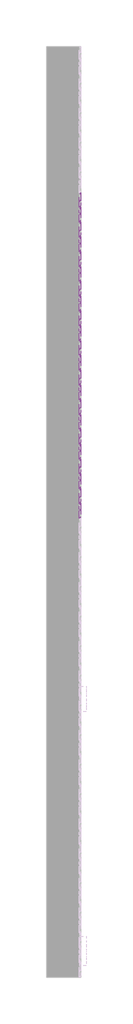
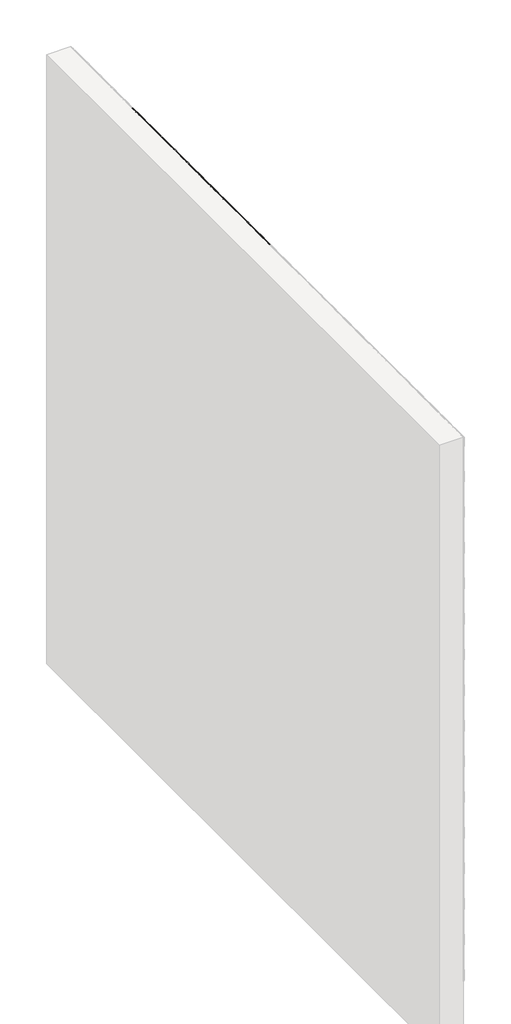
# One storey, part 20 of 121: 136 proxies.
"""IFC4 building model written with IfcOpenShell, lengths in millimetres."""

from ifc_helpers import new_model, si_unit, origin, place, context, project, spatial, transform, mapped, element, save
from components import generic_models_b2b2c5c1, generic_models_9bf73f6f, generic_models_5d175859, generic_models_65d4feed, generic_models_3c364290, generic_models_b652511d

model = new_model("IFC4")

# Units and contexts
model_context = context("Model", 3, world=origin())
ifc_project = project(units=[si_unit("LENGTHUNIT", "METRE", prefix="MILLI")], contexts=[model_context])

# Site, building, storey
site = spatial("IfcSite", under=ifc_project)
building = spatial("IfcBuilding", under=site)
storey = spatial("IfcBuildingStorey", under=building, Name="PORTOBELLO - SHOWROOM", Elevation=0.0)

# Proxies
placement = place(None, origin())
generic_models_shape = generic_models_b2b2c5c1(model_context)
element("IfcBuildingElementProxy", 1, Name="PBSHOP - CUBICA ARGENTO 4,8X8,3 : CUBICA ARGENTO - POSIÇÃO 01", ObjectType="PBSHOP - CUBICA ARGENTO 4,8X8,3 : CUBICA ARGENTO - POSIÇÃO 01", at=placement, inside=storey, context=model_context, shape_type="MappedRepresentation", body=[
    mapped(generic_models_shape, transform((150369.5341846, -4995.4435811, 2486.3959564), x_axis=(0.0, 1.0, 0.0), y_axis=(0.0, 0.0, 1.0), z_axis=(1.0, 0.0, 0.0))),
])
element("IfcBuildingElementProxy", 2, Name="PBSHOP - CUBICA ARGENTO 4,8X8,3 : CUBICA ARGENTO - POSIÇÃO 01", ObjectType="PBSHOP - CUBICA ARGENTO 4,8X8,3 : CUBICA ARGENTO - POSIÇÃO 01", at=placement, inside=storey, context=model_context, shape_type="MappedRepresentation", body=[
    mapped(generic_models_shape, transform((150369.5341846, -4904.6043119, 2486.3959564), x_axis=(0.0, 1.0, 0.0), y_axis=(0.0, 0.0, 1.0), z_axis=(1.0, 0.0, 0.0))),
])
element("IfcBuildingElementProxy", 3, Name="PBSHOP - CUBICA ARGENTO 4,8X8,3 : CUBICA ARGENTO - POSIÇÃO 01", ObjectType="PBSHOP - CUBICA ARGENTO 4,8X8,3 : CUBICA ARGENTO - POSIÇÃO 01", at=placement, inside=storey, context=model_context, shape_type="MappedRepresentation", body=[
    mapped(generic_models_shape, transform((150369.5341846, -4813.7650427, 2486.3959564), x_axis=(0.0, 1.0, 0.0), y_axis=(0.0, 0.0, 1.0), z_axis=(1.0, 0.0, 0.0))),
])
element("IfcBuildingElementProxy", 4, Name="PBSHOP - CUBICA ARGENTO 4,8X8,3 : CUBICA ARGENTO - POSIÇÃO 01", ObjectType="PBSHOP - CUBICA ARGENTO 4,8X8,3 : CUBICA ARGENTO - POSIÇÃO 01", at=placement, inside=storey, context=model_context, shape_type="MappedRepresentation", body=[
    mapped(generic_models_shape, transform((150369.5341846, -4722.9257734, 2486.3959564), x_axis=(0.0, 1.0, 0.0), y_axis=(0.0, 0.0, 1.0), z_axis=(1.0, 0.0, 0.0))),
])
element("IfcBuildingElementProxy", 5, Name="PBSHOP - CUBICA ARGENTO 4,8X8,3 : CUBICA ARGENTO - POSIÇÃO 01", ObjectType="PBSHOP - CUBICA ARGENTO 4,8X8,3 : CUBICA ARGENTO - POSIÇÃO 01", at=placement, inside=storey, context=model_context, shape_type="MappedRepresentation", body=[
    mapped(generic_models_shape, transform((150369.5341846, -4632.0865042, 2486.3959564), x_axis=(0.0, 1.0, 0.0), y_axis=(0.0, 0.0, 1.0), z_axis=(1.0, 0.0, 0.0))),
])
element("IfcBuildingElementProxy", 6, Name="PBSHOP - CUBICA ARGENTO 4,8X8,3 : CUBICA ARGENTO - POSIÇÃO 01", ObjectType="PBSHOP - CUBICA ARGENTO 4,8X8,3 : CUBICA ARGENTO - POSIÇÃO 01", at=placement, inside=storey, context=model_context, shape_type="MappedRepresentation", body=[
    mapped(generic_models_shape, transform((150369.5341846, -4541.2472349, 2486.3959564), x_axis=(0.0, 1.0, 0.0), y_axis=(0.0, 0.0, 1.0), z_axis=(1.0, 0.0, 0.0))),
])
element("IfcBuildingElementProxy", 7, Name="PBSHOP - CUBICA ARGENTO 4,8X8,3 : CUBICA ARGENTO - POSIÇÃO 01", ObjectType="PBSHOP - CUBICA ARGENTO 4,8X8,3 : CUBICA ARGENTO - POSIÇÃO 01", at=placement, inside=storey, context=model_context, shape_type="MappedRepresentation", body=[
    mapped(generic_models_shape, transform((150369.5341846, -4450.4079657, 2486.3959564), x_axis=(0.0, 1.0, 0.0), y_axis=(0.0, 0.0, 1.0), z_axis=(1.0, 0.0, 0.0))),
])
element("IfcBuildingElementProxy", 8, Name="PBSHOP - CUBICA ARGENTO 4,8X8,3 : CUBICA ARGENTO - POSIÇÃO 01", ObjectType="PBSHOP - CUBICA ARGENTO 4,8X8,3 : CUBICA ARGENTO - POSIÇÃO 01", at=placement, inside=storey, context=model_context, shape_type="MappedRepresentation", body=[
    mapped(generic_models_shape, transform((150369.5341846, -4359.5686964, 2486.3959564), x_axis=(0.0, 1.0, 0.0), y_axis=(0.0, 0.0, 1.0), z_axis=(1.0, 0.0, 0.0))),
])
element("IfcBuildingElementProxy", 9, Name="PBSHOP - CUBICA ARGENTO 4,8X8,3 : CUBICA ARGENTO - POSIÇÃO 01", ObjectType="PBSHOP - CUBICA ARGENTO 4,8X8,3 : CUBICA ARGENTO - POSIÇÃO 01", at=placement, inside=storey, context=model_context, shape_type="MappedRepresentation", body=[
    mapped(generic_models_shape, transform((150369.5341846, -4268.7294272, 2486.3959564), x_axis=(0.0, 1.0, 0.0), y_axis=(0.0, 0.0, 1.0), z_axis=(1.0, 0.0, 0.0))),
])
element("IfcBuildingElementProxy", 10, Name="PBSHOP - CUBICA ARGENTO 4,8X8,3 : CUBICA ARGENTO - POSIÇÃO 01", ObjectType="PBSHOP - CUBICA ARGENTO 4,8X8,3 : CUBICA ARGENTO - POSIÇÃO 01", at=placement, inside=storey, context=model_context, shape_type="MappedRepresentation", body=[
    mapped(generic_models_shape, transform((150369.5341846, -4177.890158, 2486.3959564), x_axis=(0.0, 1.0, 0.0), y_axis=(0.0, 0.0, 1.0), z_axis=(1.0, 0.0, 0.0))),
])
element("IfcBuildingElementProxy", 11, Name="PBSHOP - CUBICA ARGENTO 4,8X8,3 : CUBICA ARGENTO - POSIÇÃO 01", ObjectType="PBSHOP - CUBICA ARGENTO 4,8X8,3 : CUBICA ARGENTO - POSIÇÃO 01", at=placement, inside=storey, context=model_context, shape_type="MappedRepresentation", body=[
    mapped(generic_models_shape, transform((150369.5341846, -4087.0508887, 2486.3959564), x_axis=(0.0, 1.0, 0.0), y_axis=(0.0, 0.0, 1.0), z_axis=(1.0, 0.0, 0.0))),
])
element("IfcBuildingElementProxy", 12, Name="PBSHOP - CUBICA ARGENTO 4,8X8,3 : CUBICA ARGENTO - POSIÇÃO 01", ObjectType="PBSHOP - CUBICA ARGENTO 4,8X8,3 : CUBICA ARGENTO - POSIÇÃO 01", at=placement, inside=storey, context=model_context, shape_type="MappedRepresentation", body=[
    mapped(generic_models_shape, transform((150369.5341846, -4950.0239465, 2565.3305948), x_axis=(0.0, 1.0, 0.0), y_axis=(0.0, 0.0, 1.0), z_axis=(1.0, 0.0, 0.0))),
])
element("IfcBuildingElementProxy", 13, Name="PBSHOP - CUBICA ARGENTO 4,8X8,3 : CUBICA ARGENTO - POSIÇÃO 01", ObjectType="PBSHOP - CUBICA ARGENTO 4,8X8,3 : CUBICA ARGENTO - POSIÇÃO 01", at=placement, inside=storey, context=model_context, shape_type="MappedRepresentation", body=[
    mapped(generic_models_shape, transform((150369.5341846, -4859.1846773, 2565.3305948), x_axis=(0.0, 1.0, 0.0), y_axis=(0.0, 0.0, 1.0), z_axis=(1.0, 0.0, 0.0))),
])
element("IfcBuildingElementProxy", 14, Name="PBSHOP - CUBICA ARGENTO 4,8X8,3 : CUBICA ARGENTO - POSIÇÃO 01", ObjectType="PBSHOP - CUBICA ARGENTO 4,8X8,3 : CUBICA ARGENTO - POSIÇÃO 01", at=placement, inside=storey, context=model_context, shape_type="MappedRepresentation", body=[
    mapped(generic_models_shape, transform((150369.5341846, -4768.345408, 2565.3305948), x_axis=(0.0, 1.0, 0.0), y_axis=(0.0, 0.0, 1.0), z_axis=(1.0, 0.0, 0.0))),
])
element("IfcBuildingElementProxy", 15, Name="PBSHOP - CUBICA ARGENTO 4,8X8,3 : CUBICA ARGENTO - POSIÇÃO 01", ObjectType="PBSHOP - CUBICA ARGENTO 4,8X8,3 : CUBICA ARGENTO - POSIÇÃO 01", at=placement, inside=storey, context=model_context, shape_type="MappedRepresentation", body=[
    mapped(generic_models_shape, transform((150369.5341846, -4677.5061388, 2565.3305948), x_axis=(0.0, 1.0, 0.0), y_axis=(0.0, 0.0, 1.0), z_axis=(1.0, 0.0, 0.0))),
])
element("IfcBuildingElementProxy", 16, Name="PBSHOP - CUBICA ARGENTO 4,8X8,3 : CUBICA ARGENTO - POSIÇÃO 01", ObjectType="PBSHOP - CUBICA ARGENTO 4,8X8,3 : CUBICA ARGENTO - POSIÇÃO 01", at=placement, inside=storey, context=model_context, shape_type="MappedRepresentation", body=[
    mapped(generic_models_shape, transform((150369.5341846, -4586.6668696, 2565.3305948), x_axis=(0.0, 1.0, 0.0), y_axis=(0.0, 0.0, 1.0), z_axis=(1.0, 0.0, 0.0))),
])
element("IfcBuildingElementProxy", 17, Name="PBSHOP - CUBICA ARGENTO 4,8X8,3 : CUBICA ARGENTO - POSIÇÃO 01", ObjectType="PBSHOP - CUBICA ARGENTO 4,8X8,3 : CUBICA ARGENTO - POSIÇÃO 01", at=placement, inside=storey, context=model_context, shape_type="MappedRepresentation", body=[
    mapped(generic_models_shape, transform((150369.5341846, -4495.8276003, 2565.3305948), x_axis=(0.0, 1.0, 0.0), y_axis=(0.0, 0.0, 1.0), z_axis=(1.0, 0.0, 0.0))),
])
element("IfcBuildingElementProxy", 18, Name="PBSHOP - CUBICA ARGENTO 4,8X8,3 : CUBICA ARGENTO - POSIÇÃO 01", ObjectType="PBSHOP - CUBICA ARGENTO 4,8X8,3 : CUBICA ARGENTO - POSIÇÃO 01", at=placement, inside=storey, context=model_context, shape_type="MappedRepresentation", body=[
    mapped(generic_models_shape, transform((150369.5341846, -4404.9883311, 2565.3305948), x_axis=(0.0, 1.0, 0.0), y_axis=(0.0, 0.0, 1.0), z_axis=(1.0, 0.0, 0.0))),
])
element("IfcBuildingElementProxy", 19, Name="PBSHOP - CUBICA ARGENTO 4,8X8,3 : CUBICA ARGENTO - POSIÇÃO 01", ObjectType="PBSHOP - CUBICA ARGENTO 4,8X8,3 : CUBICA ARGENTO - POSIÇÃO 01", at=placement, inside=storey, context=model_context, shape_type="MappedRepresentation", body=[
    mapped(generic_models_shape, transform((150369.5341846, -4314.1490618, 2565.3305948), x_axis=(0.0, 1.0, 0.0), y_axis=(0.0, 0.0, 1.0), z_axis=(1.0, 0.0, 0.0))),
])
element("IfcBuildingElementProxy", 20, Name="PBSHOP - CUBICA ARGENTO 4,8X8,3 : CUBICA ARGENTO - POSIÇÃO 01", ObjectType="PBSHOP - CUBICA ARGENTO 4,8X8,3 : CUBICA ARGENTO - POSIÇÃO 01", at=placement, inside=storey, context=model_context, shape_type="MappedRepresentation", body=[
    mapped(generic_models_shape, transform((150369.5341846, -4223.3097926, 2565.3305948), x_axis=(0.0, 1.0, 0.0), y_axis=(0.0, 0.0, 1.0), z_axis=(1.0, 0.0, 0.0))),
])
element("IfcBuildingElementProxy", 21, Name="PBSHOP - CUBICA ARGENTO 4,8X8,3 : CUBICA ARGENTO - POSIÇÃO 01", ObjectType="PBSHOP - CUBICA ARGENTO 4,8X8,3 : CUBICA ARGENTO - POSIÇÃO 01", at=placement, inside=storey, context=model_context, shape_type="MappedRepresentation", body=[
    mapped(generic_models_shape, transform((150369.5341846, -4132.4705233, 2565.3305948), x_axis=(0.0, 1.0, 0.0), y_axis=(0.0, 0.0, 1.0), z_axis=(1.0, 0.0, 0.0))),
])
element("IfcBuildingElementProxy", 22, Name="PBSHOP - CUBICA ARGENTO 4,8X8,3 : CUBICA ARGENTO - POSIÇÃO 01", ObjectType="PBSHOP - CUBICA ARGENTO 4,8X8,3 : CUBICA ARGENTO - POSIÇÃO 01", at=placement, inside=storey, context=model_context, shape_type="MappedRepresentation", body=[
    mapped(generic_models_shape, transform((150369.5341846, -4041.6312541, 2565.3305948), x_axis=(0.0, 1.0, 0.0), y_axis=(0.0, 0.0, 1.0), z_axis=(1.0, 0.0, 0.0))),
])
element("IfcBuildingElementProxy", 23, Name="PBSHOP - CUBICA ARGENTO 4,8X8,3 : CUBICA ARGENTO - POSIÇÃO 01", ObjectType="PBSHOP - CUBICA ARGENTO 4,8X8,3 : CUBICA ARGENTO - POSIÇÃO 01", at=placement, inside=storey, context=model_context, shape_type="MappedRepresentation", body=[
    mapped(generic_models_shape, transform((150369.5341846, -4995.4435811, 2644.2652332), x_axis=(0.0, 1.0, 0.0), y_axis=(0.0, 0.0, 1.0), z_axis=(1.0, 0.0, 0.0))),
])
element("IfcBuildingElementProxy", 24, Name="PBSHOP - CUBICA ARGENTO 4,8X8,3 : CUBICA ARGENTO - POSIÇÃO 01", ObjectType="PBSHOP - CUBICA ARGENTO 4,8X8,3 : CUBICA ARGENTO - POSIÇÃO 01", at=placement, inside=storey, context=model_context, shape_type="MappedRepresentation", body=[
    mapped(generic_models_shape, transform((150369.5341846, -4904.6043119, 2644.2652332), x_axis=(0.0, 1.0, 0.0), y_axis=(0.0, 0.0, 1.0), z_axis=(1.0, 0.0, 0.0))),
])
element("IfcBuildingElementProxy", 25, Name="PBSHOP - CUBICA ARGENTO 4,8X8,3 : CUBICA ARGENTO - POSIÇÃO 01", ObjectType="PBSHOP - CUBICA ARGENTO 4,8X8,3 : CUBICA ARGENTO - POSIÇÃO 01", at=placement, inside=storey, context=model_context, shape_type="MappedRepresentation", body=[
    mapped(generic_models_shape, transform((150369.5341846, -4813.7650427, 2644.2652332), x_axis=(0.0, 1.0, 0.0), y_axis=(0.0, 0.0, 1.0), z_axis=(1.0, 0.0, 0.0))),
])
element("IfcBuildingElementProxy", 26, Name="PBSHOP - CUBICA ARGENTO 4,8X8,3 : CUBICA ARGENTO - POSIÇÃO 01", ObjectType="PBSHOP - CUBICA ARGENTO 4,8X8,3 : CUBICA ARGENTO - POSIÇÃO 01", at=placement, inside=storey, context=model_context, shape_type="MappedRepresentation", body=[
    mapped(generic_models_shape, transform((150369.5341846, -4722.9257734, 2644.2652332), x_axis=(0.0, 1.0, 0.0), y_axis=(0.0, 0.0, 1.0), z_axis=(1.0, 0.0, 0.0))),
])
element("IfcBuildingElementProxy", 27, Name="PBSHOP - CUBICA ARGENTO 4,8X8,3 : CUBICA ARGENTO - POSIÇÃO 01", ObjectType="PBSHOP - CUBICA ARGENTO 4,8X8,3 : CUBICA ARGENTO - POSIÇÃO 01", at=placement, inside=storey, context=model_context, shape_type="MappedRepresentation", body=[
    mapped(generic_models_shape, transform((150369.5341846, -4632.0865042, 2644.2652332), x_axis=(0.0, 1.0, 0.0), y_axis=(0.0, 0.0, 1.0), z_axis=(1.0, 0.0, 0.0))),
])
element("IfcBuildingElementProxy", 28, Name="PBSHOP - CUBICA ARGENTO 4,8X8,3 : CUBICA ARGENTO - POSIÇÃO 01", ObjectType="PBSHOP - CUBICA ARGENTO 4,8X8,3 : CUBICA ARGENTO - POSIÇÃO 01", at=placement, inside=storey, context=model_context, shape_type="MappedRepresentation", body=[
    mapped(generic_models_shape, transform((150369.5341846, -4541.2472349, 2644.2652332), x_axis=(0.0, 1.0, 0.0), y_axis=(0.0, 0.0, 1.0), z_axis=(1.0, 0.0, 0.0))),
])
element("IfcBuildingElementProxy", 29, Name="PBSHOP - CUBICA ARGENTO 4,8X8,3 : CUBICA ARGENTO - POSIÇÃO 01", ObjectType="PBSHOP - CUBICA ARGENTO 4,8X8,3 : CUBICA ARGENTO - POSIÇÃO 01", at=placement, inside=storey, context=model_context, shape_type="MappedRepresentation", body=[
    mapped(generic_models_shape, transform((150369.5341846, -4450.4079657, 2644.2652332), x_axis=(0.0, 1.0, 0.0), y_axis=(0.0, 0.0, 1.0), z_axis=(1.0, 0.0, 0.0))),
])
element("IfcBuildingElementProxy", 30, Name="PBSHOP - CUBICA ARGENTO 4,8X8,3 : CUBICA ARGENTO - POSIÇÃO 01", ObjectType="PBSHOP - CUBICA ARGENTO 4,8X8,3 : CUBICA ARGENTO - POSIÇÃO 01", at=placement, inside=storey, context=model_context, shape_type="MappedRepresentation", body=[
    mapped(generic_models_shape, transform((150369.5341846, -4359.5686964, 2644.2652332), x_axis=(0.0, 1.0, 0.0), y_axis=(0.0, 0.0, 1.0), z_axis=(1.0, 0.0, 0.0))),
])
element("IfcBuildingElementProxy", 31, Name="PBSHOP - CUBICA ARGENTO 4,8X8,3 : CUBICA ARGENTO - POSIÇÃO 01", ObjectType="PBSHOP - CUBICA ARGENTO 4,8X8,3 : CUBICA ARGENTO - POSIÇÃO 01", at=placement, inside=storey, context=model_context, shape_type="MappedRepresentation", body=[
    mapped(generic_models_shape, transform((150369.5341846, -4268.7294272, 2644.2652332), x_axis=(0.0, 1.0, 0.0), y_axis=(0.0, 0.0, 1.0), z_axis=(1.0, 0.0, 0.0))),
])
element("IfcBuildingElementProxy", 32, Name="PBSHOP - CUBICA ARGENTO 4,8X8,3 : CUBICA ARGENTO - POSIÇÃO 01", ObjectType="PBSHOP - CUBICA ARGENTO 4,8X8,3 : CUBICA ARGENTO - POSIÇÃO 01", at=placement, inside=storey, context=model_context, shape_type="MappedRepresentation", body=[
    mapped(generic_models_shape, transform((150369.5341846, -4177.890158, 2644.2652332), x_axis=(0.0, 1.0, 0.0), y_axis=(0.0, 0.0, 1.0), z_axis=(1.0, 0.0, 0.0))),
])
element("IfcBuildingElementProxy", 33, Name="PBSHOP - CUBICA ARGENTO 4,8X8,3 : CUBICA ARGENTO - POSIÇÃO 01", ObjectType="PBSHOP - CUBICA ARGENTO 4,8X8,3 : CUBICA ARGENTO - POSIÇÃO 01", at=placement, inside=storey, context=model_context, shape_type="MappedRepresentation", body=[
    mapped(generic_models_shape, transform((150369.5341846, -4087.0508887, 2644.2652332), x_axis=(0.0, 1.0, 0.0), y_axis=(0.0, 0.0, 1.0), z_axis=(1.0, 0.0, 0.0))),
])
generic_models_2_shape = generic_models_9bf73f6f(model_context)
element("IfcBuildingElementProxy", 34, Name="PBSHOP - CUBICA ARGENTO 4,8X8,3 : CUBICA ARGENTO - POSIÇÃO 03", ObjectType="PBSHOP - CUBICA ARGENTO 4,8X8,3 : CUBICA ARGENTO - POSIÇÃO 03", at=placement, inside=storey, context=model_context, shape_type="MappedRepresentation", body=[
    mapped(generic_models_2_shape, transform((150369.5341846, -4336.85672, 2367.9527884), x_axis=(0.0, 1.0, 0.0), y_axis=(0.0, 0.0, 1.0), z_axis=(1.0, 0.0, 0.0))),
])
element("IfcBuildingElementProxy", 35, Name="PBSHOP - CUBICA ARGENTO 4,8X8,3 : CUBICA ARGENTO - POSIÇÃO 03", ObjectType="PBSHOP - CUBICA ARGENTO 4,8X8,3 : CUBICA ARGENTO - POSIÇÃO 03", at=placement, inside=storey, context=model_context, shape_type="MappedRepresentation", body=[
    mapped(generic_models_2_shape, transform((150369.5341846, -4246.0174507, 2367.9527884), x_axis=(0.0, 1.0, 0.0), y_axis=(0.0, 0.0, 1.0), z_axis=(1.0, 0.0, 0.0))),
])
element("IfcBuildingElementProxy", 36, Name="PBSHOP - CUBICA ARGENTO 4,8X8,3 : CUBICA ARGENTO - POSIÇÃO 03", ObjectType="PBSHOP - CUBICA ARGENTO 4,8X8,3 : CUBICA ARGENTO - POSIÇÃO 03", at=placement, inside=storey, context=model_context, shape_type="MappedRepresentation", body=[
    mapped(generic_models_2_shape, transform((150369.5341846, -4155.1781815, 2367.9527884), x_axis=(0.0, 1.0, 0.0), y_axis=(0.0, 0.0, 1.0), z_axis=(1.0, 0.0, 0.0))),
])
element("IfcBuildingElementProxy", 37, Name="PBSHOP - CUBICA ARGENTO 4,8X8,3 : CUBICA ARGENTO - POSIÇÃO 03", ObjectType="PBSHOP - CUBICA ARGENTO 4,8X8,3 : CUBICA ARGENTO - POSIÇÃO 03", at=placement, inside=storey, context=model_context, shape_type="MappedRepresentation", body=[
    mapped(generic_models_2_shape, transform((150369.5341846, -4064.3389122, 2367.9527884), x_axis=(0.0, 1.0, 0.0), y_axis=(0.0, 0.0, 1.0), z_axis=(1.0, 0.0, 0.0))),
])
element("IfcBuildingElementProxy", 38, Name="PBSHOP - CUBICA ARGENTO 4,8X8,3 : CUBICA ARGENTO - POSIÇÃO 03", ObjectType="PBSHOP - CUBICA ARGENTO 4,8X8,3 : CUBICA ARGENTO - POSIÇÃO 03", at=placement, inside=storey, context=model_context, shape_type="MappedRepresentation", body=[
    mapped(generic_models_2_shape, transform((150369.5341846, -4927.3119701, 2446.8874268), x_axis=(0.0, 1.0, 0.0), y_axis=(0.0, 0.0, 1.0), z_axis=(1.0, 0.0, 0.0))),
])
element("IfcBuildingElementProxy", 39, Name="PBSHOP - CUBICA ARGENTO 4,8X8,3 : CUBICA ARGENTO - POSIÇÃO 03", ObjectType="PBSHOP - CUBICA ARGENTO 4,8X8,3 : CUBICA ARGENTO - POSIÇÃO 03", at=placement, inside=storey, context=model_context, shape_type="MappedRepresentation", body=[
    mapped(generic_models_2_shape, transform((150369.5341846, -4836.4727008, 2446.8874268), x_axis=(0.0, 1.0, 0.0), y_axis=(0.0, 0.0, 1.0), z_axis=(1.0, 0.0, 0.0))),
])
element("IfcBuildingElementProxy", 40, Name="PBSHOP - CUBICA ARGENTO 4,8X8,3 : CUBICA ARGENTO - POSIÇÃO 03", ObjectType="PBSHOP - CUBICA ARGENTO 4,8X8,3 : CUBICA ARGENTO - POSIÇÃO 03", at=placement, inside=storey, context=model_context, shape_type="MappedRepresentation", body=[
    mapped(generic_models_2_shape, transform((150369.5341846, -4745.6334316, 2446.8874268), x_axis=(0.0, 1.0, 0.0), y_axis=(0.0, 0.0, 1.0), z_axis=(1.0, 0.0, 0.0))),
])
element("IfcBuildingElementProxy", 41, Name="PBSHOP - CUBICA ARGENTO 4,8X8,3 : CUBICA ARGENTO - POSIÇÃO 03", ObjectType="PBSHOP - CUBICA ARGENTO 4,8X8,3 : CUBICA ARGENTO - POSIÇÃO 03", at=placement, inside=storey, context=model_context, shape_type="MappedRepresentation", body=[
    mapped(generic_models_2_shape, transform((150369.5341846, -4654.7941623, 2446.8874268), x_axis=(0.0, 1.0, 0.0), y_axis=(0.0, 0.0, 1.0), z_axis=(1.0, 0.0, 0.0))),
])
element("IfcBuildingElementProxy", 42, Name="PBSHOP - CUBICA ARGENTO 4,8X8,3 : CUBICA ARGENTO - POSIÇÃO 03", ObjectType="PBSHOP - CUBICA ARGENTO 4,8X8,3 : CUBICA ARGENTO - POSIÇÃO 03", at=placement, inside=storey, context=model_context, shape_type="MappedRepresentation", body=[
    mapped(generic_models_2_shape, transform((150369.5341846, -4563.9548931, 2446.8874268), x_axis=(0.0, 1.0, 0.0), y_axis=(0.0, 0.0, 1.0), z_axis=(1.0, 0.0, 0.0))),
])
element("IfcBuildingElementProxy", 43, Name="PBSHOP - CUBICA ARGENTO 4,8X8,3 : CUBICA ARGENTO - POSIÇÃO 03", ObjectType="PBSHOP - CUBICA ARGENTO 4,8X8,3 : CUBICA ARGENTO - POSIÇÃO 03", at=placement, inside=storey, context=model_context, shape_type="MappedRepresentation", body=[
    mapped(generic_models_2_shape, transform((150369.5341846, -4473.1156238, 2446.8874268), x_axis=(0.0, 1.0, 0.0), y_axis=(0.0, 0.0, 1.0), z_axis=(1.0, 0.0, 0.0))),
])
element("IfcBuildingElementProxy", 44, Name="PBSHOP - CUBICA ARGENTO 4,8X8,3 : CUBICA ARGENTO - POSIÇÃO 03", ObjectType="PBSHOP - CUBICA ARGENTO 4,8X8,3 : CUBICA ARGENTO - POSIÇÃO 03", at=placement, inside=storey, context=model_context, shape_type="MappedRepresentation", body=[
    mapped(generic_models_2_shape, transform((150369.5341846, -4382.2763546, 2446.8874268), x_axis=(0.0, 1.0, 0.0), y_axis=(0.0, 0.0, 1.0), z_axis=(1.0, 0.0, 0.0))),
])
element("IfcBuildingElementProxy", 45, Name="PBSHOP - CUBICA ARGENTO 4,8X8,3 : CUBICA ARGENTO - POSIÇÃO 03", ObjectType="PBSHOP - CUBICA ARGENTO 4,8X8,3 : CUBICA ARGENTO - POSIÇÃO 03", at=placement, inside=storey, context=model_context, shape_type="MappedRepresentation", body=[
    mapped(generic_models_2_shape, transform((150369.5341846, -4291.4370853, 2446.8874268), x_axis=(0.0, 1.0, 0.0), y_axis=(0.0, 0.0, 1.0), z_axis=(1.0, 0.0, 0.0))),
])
element("IfcBuildingElementProxy", 46, Name="PBSHOP - CUBICA ARGENTO 4,8X8,3 : CUBICA ARGENTO - POSIÇÃO 03", ObjectType="PBSHOP - CUBICA ARGENTO 4,8X8,3 : CUBICA ARGENTO - POSIÇÃO 03", at=placement, inside=storey, context=model_context, shape_type="MappedRepresentation", body=[
    mapped(generic_models_2_shape, transform((150369.5341846, -4200.5978161, 2446.8874268), x_axis=(0.0, 1.0, 0.0), y_axis=(0.0, 0.0, 1.0), z_axis=(1.0, 0.0, 0.0))),
])
element("IfcBuildingElementProxy", 47, Name="PBSHOP - CUBICA ARGENTO 4,8X8,3 : CUBICA ARGENTO - POSIÇÃO 03", ObjectType="PBSHOP - CUBICA ARGENTO 4,8X8,3 : CUBICA ARGENTO - POSIÇÃO 03", at=placement, inside=storey, context=model_context, shape_type="MappedRepresentation", body=[
    mapped(generic_models_2_shape, transform((150369.5341846, -4109.7585469, 2446.8874268), x_axis=(0.0, 1.0, 0.0), y_axis=(0.0, 0.0, 1.0), z_axis=(1.0, 0.0, 0.0))),
])
element("IfcBuildingElementProxy", 48, Name="PBSHOP - CUBICA ARGENTO 4,8X8,3 : CUBICA ARGENTO - POSIÇÃO 03", ObjectType="PBSHOP - CUBICA ARGENTO 4,8X8,3 : CUBICA ARGENTO - POSIÇÃO 03", at=placement, inside=storey, context=model_context, shape_type="MappedRepresentation", body=[
    mapped(generic_models_2_shape, transform((150369.5341846, -4018.9192776, 2446.8874268), x_axis=(0.0, 1.0, 0.0), y_axis=(0.0, 0.0, 1.0), z_axis=(1.0, 0.0, 0.0))),
])
element("IfcBuildingElementProxy", 49, Name="PBSHOP - CUBICA ARGENTO 4,8X8,3 : CUBICA ARGENTO - POSIÇÃO 03", ObjectType="PBSHOP - CUBICA ARGENTO 4,8X8,3 : CUBICA ARGENTO - POSIÇÃO 03", at=placement, inside=storey, context=model_context, shape_type="MappedRepresentation", body=[
    mapped(generic_models_2_shape, transform((150369.5341846, -4972.7316047, 2525.8220652), x_axis=(0.0, 1.0, 0.0), y_axis=(0.0, 0.0, 1.0), z_axis=(1.0, 0.0, 0.0))),
])
element("IfcBuildingElementProxy", 50, Name="PBSHOP - CUBICA ARGENTO 4,8X8,3 : CUBICA ARGENTO - POSIÇÃO 03", ObjectType="PBSHOP - CUBICA ARGENTO 4,8X8,3 : CUBICA ARGENTO - POSIÇÃO 03", at=placement, inside=storey, context=model_context, shape_type="MappedRepresentation", body=[
    mapped(generic_models_2_shape, transform((150369.5341846, -4881.8923354, 2525.8220652), x_axis=(0.0, 1.0, 0.0), y_axis=(0.0, 0.0, 1.0), z_axis=(1.0, 0.0, 0.0))),
])
element("IfcBuildingElementProxy", 51, Name="PBSHOP - CUBICA ARGENTO 4,8X8,3 : CUBICA ARGENTO - POSIÇÃO 03", ObjectType="PBSHOP - CUBICA ARGENTO 4,8X8,3 : CUBICA ARGENTO - POSIÇÃO 03", at=placement, inside=storey, context=model_context, shape_type="MappedRepresentation", body=[
    mapped(generic_models_2_shape, transform((150369.5341846, -4791.0530662, 2525.8220652), x_axis=(0.0, 1.0, 0.0), y_axis=(0.0, 0.0, 1.0), z_axis=(1.0, 0.0, 0.0))),
])
element("IfcBuildingElementProxy", 52, Name="PBSHOP - CUBICA ARGENTO 4,8X8,3 : CUBICA ARGENTO - POSIÇÃO 03", ObjectType="PBSHOP - CUBICA ARGENTO 4,8X8,3 : CUBICA ARGENTO - POSIÇÃO 03", at=placement, inside=storey, context=model_context, shape_type="MappedRepresentation", body=[
    mapped(generic_models_2_shape, transform((150369.5341846, -4700.2137969, 2525.8220652), x_axis=(0.0, 1.0, 0.0), y_axis=(0.0, 0.0, 1.0), z_axis=(1.0, 0.0, 0.0))),
])
element("IfcBuildingElementProxy", 53, Name="PBSHOP - CUBICA ARGENTO 4,8X8,3 : CUBICA ARGENTO - POSIÇÃO 03", ObjectType="PBSHOP - CUBICA ARGENTO 4,8X8,3 : CUBICA ARGENTO - POSIÇÃO 03", at=placement, inside=storey, context=model_context, shape_type="MappedRepresentation", body=[
    mapped(generic_models_2_shape, transform((150369.5341846, -4609.3745277, 2525.8220652), x_axis=(0.0, 1.0, 0.0), y_axis=(0.0, 0.0, 1.0), z_axis=(1.0, 0.0, 0.0))),
])
element("IfcBuildingElementProxy", 54, Name="PBSHOP - CUBICA ARGENTO 4,8X8,3 : CUBICA ARGENTO - POSIÇÃO 03", ObjectType="PBSHOP - CUBICA ARGENTO 4,8X8,3 : CUBICA ARGENTO - POSIÇÃO 03", at=placement, inside=storey, context=model_context, shape_type="MappedRepresentation", body=[
    mapped(generic_models_2_shape, transform((150369.5341846, -4518.5352585, 2525.8220652), x_axis=(0.0, 1.0, 0.0), y_axis=(0.0, 0.0, 1.0), z_axis=(1.0, 0.0, 0.0))),
])
element("IfcBuildingElementProxy", 55, Name="PBSHOP - CUBICA ARGENTO 4,8X8,3 : CUBICA ARGENTO - POSIÇÃO 03", ObjectType="PBSHOP - CUBICA ARGENTO 4,8X8,3 : CUBICA ARGENTO - POSIÇÃO 03", at=placement, inside=storey, context=model_context, shape_type="MappedRepresentation", body=[
    mapped(generic_models_2_shape, transform((150369.5341846, -4427.6959892, 2525.8220652), x_axis=(0.0, 1.0, 0.0), y_axis=(0.0, 0.0, 1.0), z_axis=(1.0, 0.0, 0.0))),
])
element("IfcBuildingElementProxy", 56, Name="PBSHOP - CUBICA ARGENTO 4,8X8,3 : CUBICA ARGENTO - POSIÇÃO 03", ObjectType="PBSHOP - CUBICA ARGENTO 4,8X8,3 : CUBICA ARGENTO - POSIÇÃO 03", at=placement, inside=storey, context=model_context, shape_type="MappedRepresentation", body=[
    mapped(generic_models_2_shape, transform((150369.5341846, -4336.85672, 2525.8220652), x_axis=(0.0, 1.0, 0.0), y_axis=(0.0, 0.0, 1.0), z_axis=(1.0, 0.0, 0.0))),
])
element("IfcBuildingElementProxy", 57, Name="PBSHOP - CUBICA ARGENTO 4,8X8,3 : CUBICA ARGENTO - POSIÇÃO 03", ObjectType="PBSHOP - CUBICA ARGENTO 4,8X8,3 : CUBICA ARGENTO - POSIÇÃO 03", at=placement, inside=storey, context=model_context, shape_type="MappedRepresentation", body=[
    mapped(generic_models_2_shape, transform((150369.5341846, -4246.0174507, 2525.8220652), x_axis=(0.0, 1.0, 0.0), y_axis=(0.0, 0.0, 1.0), z_axis=(1.0, 0.0, 0.0))),
])
element("IfcBuildingElementProxy", 58, Name="PBSHOP - CUBICA ARGENTO 4,8X8,3 : CUBICA ARGENTO - POSIÇÃO 03", ObjectType="PBSHOP - CUBICA ARGENTO 4,8X8,3 : CUBICA ARGENTO - POSIÇÃO 03", at=placement, inside=storey, context=model_context, shape_type="MappedRepresentation", body=[
    mapped(generic_models_2_shape, transform((150369.5341846, -4155.1781815, 2525.8220652), x_axis=(0.0, 1.0, 0.0), y_axis=(0.0, 0.0, 1.0), z_axis=(1.0, 0.0, 0.0))),
])
element("IfcBuildingElementProxy", 59, Name="PBSHOP - CUBICA ARGENTO 4,8X8,3 : CUBICA ARGENTO - POSIÇÃO 03", ObjectType="PBSHOP - CUBICA ARGENTO 4,8X8,3 : CUBICA ARGENTO - POSIÇÃO 03", at=placement, inside=storey, context=model_context, shape_type="MappedRepresentation", body=[
    mapped(generic_models_2_shape, transform((150369.5341846, -4064.3389122, 2525.8220652), x_axis=(0.0, 1.0, 0.0), y_axis=(0.0, 0.0, 1.0), z_axis=(1.0, 0.0, 0.0))),
])
element("IfcBuildingElementProxy", 60, Name="PBSHOP - CUBICA ARGENTO 4,8X8,3 : CUBICA ARGENTO - POSIÇÃO 03", ObjectType="PBSHOP - CUBICA ARGENTO 4,8X8,3 : CUBICA ARGENTO - POSIÇÃO 03", at=placement, inside=storey, context=model_context, shape_type="MappedRepresentation", body=[
    mapped(generic_models_2_shape, transform((150369.5341846, -4927.3119701, 2604.7567035), x_axis=(0.0, 1.0, 0.0), y_axis=(0.0, 0.0, 1.0), z_axis=(1.0, 0.0, 0.0))),
])
element("IfcBuildingElementProxy", 61, Name="PBSHOP - CUBICA ARGENTO 4,8X8,3 : CUBICA ARGENTO - POSIÇÃO 03", ObjectType="PBSHOP - CUBICA ARGENTO 4,8X8,3 : CUBICA ARGENTO - POSIÇÃO 03", at=placement, inside=storey, context=model_context, shape_type="MappedRepresentation", body=[
    mapped(generic_models_2_shape, transform((150369.5341846, -4836.4727008, 2604.7567035), x_axis=(0.0, 1.0, 0.0), y_axis=(0.0, 0.0, 1.0), z_axis=(1.0, 0.0, 0.0))),
])
element("IfcBuildingElementProxy", 62, Name="PBSHOP - CUBICA ARGENTO 4,8X8,3 : CUBICA ARGENTO - POSIÇÃO 03", ObjectType="PBSHOP - CUBICA ARGENTO 4,8X8,3 : CUBICA ARGENTO - POSIÇÃO 03", at=placement, inside=storey, context=model_context, shape_type="MappedRepresentation", body=[
    mapped(generic_models_2_shape, transform((150369.5341846, -4745.6334316, 2604.7567035), x_axis=(0.0, 1.0, 0.0), y_axis=(0.0, 0.0, 1.0), z_axis=(1.0, 0.0, 0.0))),
])
element("IfcBuildingElementProxy", 63, Name="PBSHOP - CUBICA ARGENTO 4,8X8,3 : CUBICA ARGENTO - POSIÇÃO 03", ObjectType="PBSHOP - CUBICA ARGENTO 4,8X8,3 : CUBICA ARGENTO - POSIÇÃO 03", at=placement, inside=storey, context=model_context, shape_type="MappedRepresentation", body=[
    mapped(generic_models_2_shape, transform((150369.5341846, -4654.7941623, 2604.7567035), x_axis=(0.0, 1.0, 0.0), y_axis=(0.0, 0.0, 1.0), z_axis=(1.0, 0.0, 0.0))),
])
element("IfcBuildingElementProxy", 64, Name="PBSHOP - CUBICA ARGENTO 4,8X8,3 : CUBICA ARGENTO - POSIÇÃO 03", ObjectType="PBSHOP - CUBICA ARGENTO 4,8X8,3 : CUBICA ARGENTO - POSIÇÃO 03", at=placement, inside=storey, context=model_context, shape_type="MappedRepresentation", body=[
    mapped(generic_models_2_shape, transform((150369.5341846, -4563.9548931, 2604.7567035), x_axis=(0.0, 1.0, 0.0), y_axis=(0.0, 0.0, 1.0), z_axis=(1.0, 0.0, 0.0))),
])
element("IfcBuildingElementProxy", 65, Name="PBSHOP - CUBICA ARGENTO 4,8X8,3 : CUBICA ARGENTO - POSIÇÃO 03", ObjectType="PBSHOP - CUBICA ARGENTO 4,8X8,3 : CUBICA ARGENTO - POSIÇÃO 03", at=placement, inside=storey, context=model_context, shape_type="MappedRepresentation", body=[
    mapped(generic_models_2_shape, transform((150369.5341846, -4473.1156238, 2604.7567035), x_axis=(0.0, 1.0, 0.0), y_axis=(0.0, 0.0, 1.0), z_axis=(1.0, 0.0, 0.0))),
])
element("IfcBuildingElementProxy", 66, Name="PBSHOP - CUBICA ARGENTO 4,8X8,3 : CUBICA ARGENTO - POSIÇÃO 03", ObjectType="PBSHOP - CUBICA ARGENTO 4,8X8,3 : CUBICA ARGENTO - POSIÇÃO 03", at=placement, inside=storey, context=model_context, shape_type="MappedRepresentation", body=[
    mapped(generic_models_2_shape, transform((150369.5341846, -4382.2763546, 2604.7567035), x_axis=(0.0, 1.0, 0.0), y_axis=(0.0, 0.0, 1.0), z_axis=(1.0, 0.0, 0.0))),
])
element("IfcBuildingElementProxy", 67, Name="PBSHOP - CUBICA ARGENTO 4,8X8,3 : CUBICA ARGENTO - POSIÇÃO 03", ObjectType="PBSHOP - CUBICA ARGENTO 4,8X8,3 : CUBICA ARGENTO - POSIÇÃO 03", at=placement, inside=storey, context=model_context, shape_type="MappedRepresentation", body=[
    mapped(generic_models_2_shape, transform((150369.5341846, -4291.4370853, 2604.7567035), x_axis=(0.0, 1.0, 0.0), y_axis=(0.0, 0.0, 1.0), z_axis=(1.0, 0.0, 0.0))),
])
element("IfcBuildingElementProxy", 68, Name="PBSHOP - CUBICA ARGENTO 4,8X8,3 : CUBICA ARGENTO - POSIÇÃO 03", ObjectType="PBSHOP - CUBICA ARGENTO 4,8X8,3 : CUBICA ARGENTO - POSIÇÃO 03", at=placement, inside=storey, context=model_context, shape_type="MappedRepresentation", body=[
    mapped(generic_models_2_shape, transform((150369.5341846, -4200.5978161, 2604.7567035), x_axis=(0.0, 1.0, 0.0), y_axis=(0.0, 0.0, 1.0), z_axis=(1.0, 0.0, 0.0))),
])
element("IfcBuildingElementProxy", 69, Name="PBSHOP - CUBICA ARGENTO 4,8X8,3 : CUBICA ARGENTO - POSIÇÃO 03", ObjectType="PBSHOP - CUBICA ARGENTO 4,8X8,3 : CUBICA ARGENTO - POSIÇÃO 03", at=placement, inside=storey, context=model_context, shape_type="MappedRepresentation", body=[
    mapped(generic_models_2_shape, transform((150369.5341846, -4109.7585469, 2604.7567035), x_axis=(0.0, 1.0, 0.0), y_axis=(0.0, 0.0, 1.0), z_axis=(1.0, 0.0, 0.0))),
])
element("IfcBuildingElementProxy", 70, Name="PBSHOP - CUBICA ARGENTO 4,8X8,3 : CUBICA ARGENTO - POSIÇÃO 03", ObjectType="PBSHOP - CUBICA ARGENTO 4,8X8,3 : CUBICA ARGENTO - POSIÇÃO 03", at=placement, inside=storey, context=model_context, shape_type="MappedRepresentation", body=[
    mapped(generic_models_2_shape, transform((150369.5341846, -4018.9192776, 2604.7567035), x_axis=(0.0, 1.0, 0.0), y_axis=(0.0, 0.0, 1.0), z_axis=(1.0, 0.0, 0.0))),
])
generic_models_3_shape = generic_models_5d175859(model_context)
element("IfcBuildingElementProxy", 71, Name="PBSHOP - CUBICA ARGENTO 4,8X8,3 : CUBICA ARGENTO - POSIÇÃO 01", ObjectType="PBSHOP - CUBICA ARGENTO 4,8X8,3 : CUBICA ARGENTO - POSIÇÃO 01", at=placement, inside=storey, context=model_context, shape_type="MappedRepresentation", body=[
    mapped(generic_models_3_shape, transform((150369.5341846, -4950.0196282, 2486.3959564), x_axis=(0.0, -1.0, 0.0), y_axis=(0.0, 0.0, -1.0), z_axis=(1.0, 0.0, 0.0))),
])
element("IfcBuildingElementProxy", 72, Name="PBSHOP - CUBICA ARGENTO 4,8X8,3 : CUBICA ARGENTO - POSIÇÃO 01", ObjectType="PBSHOP - CUBICA ARGENTO 4,8X8,3 : CUBICA ARGENTO - POSIÇÃO 01", at=placement, inside=storey, context=model_context, shape_type="MappedRepresentation", body=[
    mapped(generic_models_3_shape, transform((150369.5341846, -4859.180359, 2486.3959564), x_axis=(0.0, -1.0, 0.0), y_axis=(0.0, 0.0, -1.0), z_axis=(1.0, 0.0, 0.0))),
])
element("IfcBuildingElementProxy", 73, Name="PBSHOP - CUBICA ARGENTO 4,8X8,3 : CUBICA ARGENTO - POSIÇÃO 01", ObjectType="PBSHOP - CUBICA ARGENTO 4,8X8,3 : CUBICA ARGENTO - POSIÇÃO 01", at=placement, inside=storey, context=model_context, shape_type="MappedRepresentation", body=[
    mapped(generic_models_3_shape, transform((150369.5341846, -4768.3410897, 2486.3959564), x_axis=(0.0, -1.0, 0.0), y_axis=(0.0, 0.0, -1.0), z_axis=(1.0, 0.0, 0.0))),
])
element("IfcBuildingElementProxy", 74, Name="PBSHOP - CUBICA ARGENTO 4,8X8,3 : CUBICA ARGENTO - POSIÇÃO 01", ObjectType="PBSHOP - CUBICA ARGENTO 4,8X8,3 : CUBICA ARGENTO - POSIÇÃO 01", at=placement, inside=storey, context=model_context, shape_type="MappedRepresentation", body=[
    mapped(generic_models_3_shape, transform((150369.5341846, -4677.5018205, 2486.3959564), x_axis=(0.0, -1.0, 0.0), y_axis=(0.0, 0.0, -1.0), z_axis=(1.0, 0.0, 0.0))),
])
element("IfcBuildingElementProxy", 75, Name="PBSHOP - CUBICA ARGENTO 4,8X8,3 : CUBICA ARGENTO - POSIÇÃO 01", ObjectType="PBSHOP - CUBICA ARGENTO 4,8X8,3 : CUBICA ARGENTO - POSIÇÃO 01", at=placement, inside=storey, context=model_context, shape_type="MappedRepresentation", body=[
    mapped(generic_models_3_shape, transform((150369.5341846, -4586.6625512, 2486.3959564), x_axis=(0.0, -1.0, 0.0), y_axis=(0.0, 0.0, -1.0), z_axis=(1.0, 0.0, 0.0))),
])
element("IfcBuildingElementProxy", 76, Name="PBSHOP - CUBICA ARGENTO 4,8X8,3 : CUBICA ARGENTO - POSIÇÃO 01", ObjectType="PBSHOP - CUBICA ARGENTO 4,8X8,3 : CUBICA ARGENTO - POSIÇÃO 01", at=placement, inside=storey, context=model_context, shape_type="MappedRepresentation", body=[
    mapped(generic_models_3_shape, transform((150369.5341846, -4495.823282, 2486.3959564), x_axis=(0.0, -1.0, 0.0), y_axis=(0.0, 0.0, -1.0), z_axis=(1.0, 0.0, 0.0))),
])
element("IfcBuildingElementProxy", 77, Name="PBSHOP - CUBICA ARGENTO 4,8X8,3 : CUBICA ARGENTO - POSIÇÃO 01", ObjectType="PBSHOP - CUBICA ARGENTO 4,8X8,3 : CUBICA ARGENTO - POSIÇÃO 01", at=placement, inside=storey, context=model_context, shape_type="MappedRepresentation", body=[
    mapped(generic_models_3_shape, transform((150369.5341846, -4404.9840127, 2486.3959564), x_axis=(0.0, -1.0, 0.0), y_axis=(0.0, 0.0, -1.0), z_axis=(1.0, 0.0, 0.0))),
])
element("IfcBuildingElementProxy", 78, Name="PBSHOP - CUBICA ARGENTO 4,8X8,3 : CUBICA ARGENTO - POSIÇÃO 01", ObjectType="PBSHOP - CUBICA ARGENTO 4,8X8,3 : CUBICA ARGENTO - POSIÇÃO 01", at=placement, inside=storey, context=model_context, shape_type="MappedRepresentation", body=[
    mapped(generic_models_3_shape, transform((150369.5341846, -4314.1447435, 2486.3959564), x_axis=(0.0, -1.0, 0.0), y_axis=(0.0, 0.0, -1.0), z_axis=(1.0, 0.0, 0.0))),
])
element("IfcBuildingElementProxy", 79, Name="PBSHOP - CUBICA ARGENTO 4,8X8,3 : CUBICA ARGENTO - POSIÇÃO 01", ObjectType="PBSHOP - CUBICA ARGENTO 4,8X8,3 : CUBICA ARGENTO - POSIÇÃO 01", at=placement, inside=storey, context=model_context, shape_type="MappedRepresentation", body=[
    mapped(generic_models_3_shape, transform((150369.5341846, -4223.3054742, 2486.3959564), x_axis=(0.0, -1.0, 0.0), y_axis=(0.0, 0.0, -1.0), z_axis=(1.0, 0.0, 0.0))),
])
element("IfcBuildingElementProxy", 80, Name="PBSHOP - CUBICA ARGENTO 4,8X8,3 : CUBICA ARGENTO - POSIÇÃO 01", ObjectType="PBSHOP - CUBICA ARGENTO 4,8X8,3 : CUBICA ARGENTO - POSIÇÃO 01", at=placement, inside=storey, context=model_context, shape_type="MappedRepresentation", body=[
    mapped(generic_models_3_shape, transform((150369.5341846, -4132.466205, 2486.3959564), x_axis=(0.0, -1.0, 0.0), y_axis=(0.0, 0.0, -1.0), z_axis=(1.0, 0.0, 0.0))),
])
element("IfcBuildingElementProxy", 81, Name="PBSHOP - CUBICA ARGENTO 4,8X8,3 : CUBICA ARGENTO - POSIÇÃO 01", ObjectType="PBSHOP - CUBICA ARGENTO 4,8X8,3 : CUBICA ARGENTO - POSIÇÃO 01", at=placement, inside=storey, context=model_context, shape_type="MappedRepresentation", body=[
    mapped(generic_models_3_shape, transform((150369.5341846, -4041.6269358, 2486.3959564), x_axis=(0.0, -1.0, 0.0), y_axis=(0.0, 0.0, -1.0), z_axis=(1.0, 0.0, 0.0))),
])
element("IfcBuildingElementProxy", 82, Name="PBSHOP - CUBICA ARGENTO 4,8X8,3 : CUBICA ARGENTO - POSIÇÃO 01", ObjectType="PBSHOP - CUBICA ARGENTO 4,8X8,3 : CUBICA ARGENTO - POSIÇÃO 01", at=placement, inside=storey, context=model_context, shape_type="MappedRepresentation", body=[
    mapped(generic_models_3_shape, transform((150369.5341846, -4995.4392628, 2565.3305948), x_axis=(0.0, -1.0, 0.0), y_axis=(0.0, 0.0, -1.0), z_axis=(1.0, 0.0, 0.0))),
])
element("IfcBuildingElementProxy", 83, Name="PBSHOP - CUBICA ARGENTO 4,8X8,3 : CUBICA ARGENTO - POSIÇÃO 01", ObjectType="PBSHOP - CUBICA ARGENTO 4,8X8,3 : CUBICA ARGENTO - POSIÇÃO 01", at=placement, inside=storey, context=model_context, shape_type="MappedRepresentation", body=[
    mapped(generic_models_3_shape, transform((150369.5341846, -4904.5999936, 2565.3305948), x_axis=(0.0, -1.0, 0.0), y_axis=(0.0, 0.0, -1.0), z_axis=(1.0, 0.0, 0.0))),
])
element("IfcBuildingElementProxy", 84, Name="PBSHOP - CUBICA ARGENTO 4,8X8,3 : CUBICA ARGENTO - POSIÇÃO 01", ObjectType="PBSHOP - CUBICA ARGENTO 4,8X8,3 : CUBICA ARGENTO - POSIÇÃO 01", at=placement, inside=storey, context=model_context, shape_type="MappedRepresentation", body=[
    mapped(generic_models_3_shape, transform((150369.5341846, -4813.7607243, 2565.3305948), x_axis=(0.0, -1.0, 0.0), y_axis=(0.0, 0.0, -1.0), z_axis=(1.0, 0.0, 0.0))),
])
element("IfcBuildingElementProxy", 85, Name="PBSHOP - CUBICA ARGENTO 4,8X8,3 : CUBICA ARGENTO - POSIÇÃO 01", ObjectType="PBSHOP - CUBICA ARGENTO 4,8X8,3 : CUBICA ARGENTO - POSIÇÃO 01", at=placement, inside=storey, context=model_context, shape_type="MappedRepresentation", body=[
    mapped(generic_models_3_shape, transform((150369.5341846, -4722.9214551, 2565.3305948), x_axis=(0.0, -1.0, 0.0), y_axis=(0.0, 0.0, -1.0), z_axis=(1.0, 0.0, 0.0))),
])
element("IfcBuildingElementProxy", 86, Name="PBSHOP - CUBICA ARGENTO 4,8X8,3 : CUBICA ARGENTO - POSIÇÃO 01", ObjectType="PBSHOP - CUBICA ARGENTO 4,8X8,3 : CUBICA ARGENTO - POSIÇÃO 01", at=placement, inside=storey, context=model_context, shape_type="MappedRepresentation", body=[
    mapped(generic_models_3_shape, transform((150369.5341846, -4632.0821858, 2565.3305948), x_axis=(0.0, -1.0, 0.0), y_axis=(0.0, 0.0, -1.0), z_axis=(1.0, 0.0, 0.0))),
])
element("IfcBuildingElementProxy", 87, Name="PBSHOP - CUBICA ARGENTO 4,8X8,3 : CUBICA ARGENTO - POSIÇÃO 01", ObjectType="PBSHOP - CUBICA ARGENTO 4,8X8,3 : CUBICA ARGENTO - POSIÇÃO 01", at=placement, inside=storey, context=model_context, shape_type="MappedRepresentation", body=[
    mapped(generic_models_3_shape, transform((150369.5341846, -4541.2429166, 2565.3305948), x_axis=(0.0, -1.0, 0.0), y_axis=(0.0, 0.0, -1.0), z_axis=(1.0, 0.0, 0.0))),
])
element("IfcBuildingElementProxy", 88, Name="PBSHOP - CUBICA ARGENTO 4,8X8,3 : CUBICA ARGENTO - POSIÇÃO 01", ObjectType="PBSHOP - CUBICA ARGENTO 4,8X8,3 : CUBICA ARGENTO - POSIÇÃO 01", at=placement, inside=storey, context=model_context, shape_type="MappedRepresentation", body=[
    mapped(generic_models_3_shape, transform((150369.5341846, -4450.4036474, 2565.3305948), x_axis=(0.0, -1.0, 0.0), y_axis=(0.0, 0.0, -1.0), z_axis=(1.0, 0.0, 0.0))),
])
element("IfcBuildingElementProxy", 89, Name="PBSHOP - CUBICA ARGENTO 4,8X8,3 : CUBICA ARGENTO - POSIÇÃO 01", ObjectType="PBSHOP - CUBICA ARGENTO 4,8X8,3 : CUBICA ARGENTO - POSIÇÃO 01", at=placement, inside=storey, context=model_context, shape_type="MappedRepresentation", body=[
    mapped(generic_models_3_shape, transform((150369.5341846, -4359.5643781, 2565.3305948), x_axis=(0.0, -1.0, 0.0), y_axis=(0.0, 0.0, -1.0), z_axis=(1.0, 0.0, 0.0))),
])
element("IfcBuildingElementProxy", 90, Name="PBSHOP - CUBICA ARGENTO 4,8X8,3 : CUBICA ARGENTO - POSIÇÃO 01", ObjectType="PBSHOP - CUBICA ARGENTO 4,8X8,3 : CUBICA ARGENTO - POSIÇÃO 01", at=placement, inside=storey, context=model_context, shape_type="MappedRepresentation", body=[
    mapped(generic_models_3_shape, transform((150369.5341846, -4268.7251089, 2565.3305948), x_axis=(0.0, -1.0, 0.0), y_axis=(0.0, 0.0, -1.0), z_axis=(1.0, 0.0, 0.0))),
])
element("IfcBuildingElementProxy", 91, Name="PBSHOP - CUBICA ARGENTO 4,8X8,3 : CUBICA ARGENTO - POSIÇÃO 01", ObjectType="PBSHOP - CUBICA ARGENTO 4,8X8,3 : CUBICA ARGENTO - POSIÇÃO 01", at=placement, inside=storey, context=model_context, shape_type="MappedRepresentation", body=[
    mapped(generic_models_3_shape, transform((150369.5341846, -4177.8858396, 2565.3305948), x_axis=(0.0, -1.0, 0.0), y_axis=(0.0, 0.0, -1.0), z_axis=(1.0, 0.0, 0.0))),
])
element("IfcBuildingElementProxy", 92, Name="PBSHOP - CUBICA ARGENTO 4,8X8,3 : CUBICA ARGENTO - POSIÇÃO 01", ObjectType="PBSHOP - CUBICA ARGENTO 4,8X8,3 : CUBICA ARGENTO - POSIÇÃO 01", at=placement, inside=storey, context=model_context, shape_type="MappedRepresentation", body=[
    mapped(generic_models_3_shape, transform((150369.5341846, -4087.0465704, 2565.3305948), x_axis=(0.0, -1.0, 0.0), y_axis=(0.0, 0.0, -1.0), z_axis=(1.0, 0.0, 0.0))),
])
element("IfcBuildingElementProxy", 93, Name="PBSHOP - CUBICA ARGENTO 4,8X8,3 : CUBICA ARGENTO - POSIÇÃO 01", ObjectType="PBSHOP - CUBICA ARGENTO 4,8X8,3 : CUBICA ARGENTO - POSIÇÃO 01", at=placement, inside=storey, context=model_context, shape_type="MappedRepresentation", body=[
    mapped(generic_models_3_shape, transform((150369.5341846, -4950.0196282, 2644.2652332), x_axis=(0.0, -1.0, 0.0), y_axis=(0.0, 0.0, -1.0), z_axis=(1.0, 0.0, 0.0))),
])
element("IfcBuildingElementProxy", 94, Name="PBSHOP - CUBICA ARGENTO 4,8X8,3 : CUBICA ARGENTO - POSIÇÃO 01", ObjectType="PBSHOP - CUBICA ARGENTO 4,8X8,3 : CUBICA ARGENTO - POSIÇÃO 01", at=placement, inside=storey, context=model_context, shape_type="MappedRepresentation", body=[
    mapped(generic_models_3_shape, transform((150369.5341846, -4859.180359, 2644.2652332), x_axis=(0.0, -1.0, 0.0), y_axis=(0.0, 0.0, -1.0), z_axis=(1.0, 0.0, 0.0))),
])
element("IfcBuildingElementProxy", 95, Name="PBSHOP - CUBICA ARGENTO 4,8X8,3 : CUBICA ARGENTO - POSIÇÃO 01", ObjectType="PBSHOP - CUBICA ARGENTO 4,8X8,3 : CUBICA ARGENTO - POSIÇÃO 01", at=placement, inside=storey, context=model_context, shape_type="MappedRepresentation", body=[
    mapped(generic_models_3_shape, transform((150369.5341846, -4768.3410897, 2644.2652332), x_axis=(0.0, -1.0, 0.0), y_axis=(0.0, 0.0, -1.0), z_axis=(1.0, 0.0, 0.0))),
])
element("IfcBuildingElementProxy", 96, Name="PBSHOP - CUBICA ARGENTO 4,8X8,3 : CUBICA ARGENTO - POSIÇÃO 01", ObjectType="PBSHOP - CUBICA ARGENTO 4,8X8,3 : CUBICA ARGENTO - POSIÇÃO 01", at=placement, inside=storey, context=model_context, shape_type="MappedRepresentation", body=[
    mapped(generic_models_3_shape, transform((150369.5341846, -4677.5018205, 2644.2652332), x_axis=(0.0, -1.0, 0.0), y_axis=(0.0, 0.0, -1.0), z_axis=(1.0, 0.0, 0.0))),
])
element("IfcBuildingElementProxy", 97, Name="PBSHOP - CUBICA ARGENTO 4,8X8,3 : CUBICA ARGENTO - POSIÇÃO 01", ObjectType="PBSHOP - CUBICA ARGENTO 4,8X8,3 : CUBICA ARGENTO - POSIÇÃO 01", at=placement, inside=storey, context=model_context, shape_type="MappedRepresentation", body=[
    mapped(generic_models_3_shape, transform((150369.5341846, -4586.6625512, 2644.2652332), x_axis=(0.0, -1.0, 0.0), y_axis=(0.0, 0.0, -1.0), z_axis=(1.0, 0.0, 0.0))),
])
element("IfcBuildingElementProxy", 98, Name="PBSHOP - CUBICA ARGENTO 4,8X8,3 : CUBICA ARGENTO - POSIÇÃO 01", ObjectType="PBSHOP - CUBICA ARGENTO 4,8X8,3 : CUBICA ARGENTO - POSIÇÃO 01", at=placement, inside=storey, context=model_context, shape_type="MappedRepresentation", body=[
    mapped(generic_models_3_shape, transform((150369.5341846, -4495.823282, 2644.2652332), x_axis=(0.0, -1.0, 0.0), y_axis=(0.0, 0.0, -1.0), z_axis=(1.0, 0.0, 0.0))),
])
element("IfcBuildingElementProxy", 99, Name="PBSHOP - CUBICA ARGENTO 4,8X8,3 : CUBICA ARGENTO - POSIÇÃO 01", ObjectType="PBSHOP - CUBICA ARGENTO 4,8X8,3 : CUBICA ARGENTO - POSIÇÃO 01", at=placement, inside=storey, context=model_context, shape_type="MappedRepresentation", body=[
    mapped(generic_models_3_shape, transform((150369.5341846, -4404.9840127, 2644.2652332), x_axis=(0.0, -1.0, 0.0), y_axis=(0.0, 0.0, -1.0), z_axis=(1.0, 0.0, 0.0))),
])
element("IfcBuildingElementProxy", 100, Name="PBSHOP - CUBICA ARGENTO 4,8X8,3 : CUBICA ARGENTO - POSIÇÃO 01", ObjectType="PBSHOP - CUBICA ARGENTO 4,8X8,3 : CUBICA ARGENTO - POSIÇÃO 01", at=placement, inside=storey, context=model_context, shape_type="MappedRepresentation", body=[
    mapped(generic_models_3_shape, transform((150369.5341846, -4314.1447435, 2644.2652332), x_axis=(0.0, -1.0, 0.0), y_axis=(0.0, 0.0, -1.0), z_axis=(1.0, 0.0, 0.0))),
])
element("IfcBuildingElementProxy", 101, Name="PBSHOP - CUBICA ARGENTO 4,8X8,3 : CUBICA ARGENTO - POSIÇÃO 01", ObjectType="PBSHOP - CUBICA ARGENTO 4,8X8,3 : CUBICA ARGENTO - POSIÇÃO 01", at=placement, inside=storey, context=model_context, shape_type="MappedRepresentation", body=[
    mapped(generic_models_3_shape, transform((150369.5341846, -4223.3054742, 2644.2652332), x_axis=(0.0, -1.0, 0.0), y_axis=(0.0, 0.0, -1.0), z_axis=(1.0, 0.0, 0.0))),
])
element("IfcBuildingElementProxy", 102, Name="PBSHOP - CUBICA ARGENTO 4,8X8,3 : CUBICA ARGENTO - POSIÇÃO 01", ObjectType="PBSHOP - CUBICA ARGENTO 4,8X8,3 : CUBICA ARGENTO - POSIÇÃO 01", at=placement, inside=storey, context=model_context, shape_type="MappedRepresentation", body=[
    mapped(generic_models_3_shape, transform((150369.5341846, -4132.466205, 2644.2652332), x_axis=(0.0, -1.0, 0.0), y_axis=(0.0, 0.0, -1.0), z_axis=(1.0, 0.0, 0.0))),
])
element("IfcBuildingElementProxy", 103, Name="PBSHOP - CUBICA ARGENTO 4,8X8,3 : CUBICA ARGENTO - POSIÇÃO 01", ObjectType="PBSHOP - CUBICA ARGENTO 4,8X8,3 : CUBICA ARGENTO - POSIÇÃO 01", at=placement, inside=storey, context=model_context, shape_type="MappedRepresentation", body=[
    mapped(generic_models_3_shape, transform((150369.5341846, -4041.6269358, 2644.2652332), x_axis=(0.0, -1.0, 0.0), y_axis=(0.0, 0.0, -1.0), z_axis=(1.0, 0.0, 0.0))),
])
generic_models_4_shape = generic_models_65d4feed(model_context)
element("IfcBuildingElementProxy", 104, Name="PBSHOP - CUBICA ARGENTO 4,8X8,3 : CUBICA ARGENTO - POSIÇÃO 01", ObjectType="PBSHOP - CUBICA ARGENTO 4,8X8,3 : CUBICA ARGENTO - POSIÇÃO 01", at=placement, inside=storey, context=model_context, shape_type="MappedRepresentation", body=[
    mapped(generic_models_4_shape, transform((150369.5341846, -4950.0239465, 2723.1998715), x_axis=(0.0, 1.0, 0.0), y_axis=(0.0, 0.0, 1.0), z_axis=(1.0, 0.0, 0.0))),
])
element("IfcBuildingElementProxy", 105, Name="PBSHOP - CUBICA ARGENTO 4,8X8,3 : CUBICA ARGENTO - POSIÇÃO 01", ObjectType="PBSHOP - CUBICA ARGENTO 4,8X8,3 : CUBICA ARGENTO - POSIÇÃO 01", at=placement, inside=storey, context=model_context, shape_type="MappedRepresentation", body=[
    mapped(generic_models_4_shape, transform((150369.5341846, -4859.1846773, 2723.1998715), x_axis=(0.0, 1.0, 0.0), y_axis=(0.0, 0.0, 1.0), z_axis=(1.0, 0.0, 0.0))),
])
element("IfcBuildingElementProxy", 106, Name="PBSHOP - CUBICA ARGENTO 4,8X8,3 : CUBICA ARGENTO - POSIÇÃO 01", ObjectType="PBSHOP - CUBICA ARGENTO 4,8X8,3 : CUBICA ARGENTO - POSIÇÃO 01", at=placement, inside=storey, context=model_context, shape_type="MappedRepresentation", body=[
    mapped(generic_models_4_shape, transform((150369.5341846, -4768.345408, 2723.1998715), x_axis=(0.0, 1.0, 0.0), y_axis=(0.0, 0.0, 1.0), z_axis=(1.0, 0.0, 0.0))),
])
element("IfcBuildingElementProxy", 107, Name="PBSHOP - CUBICA ARGENTO 4,8X8,3 : CUBICA ARGENTO - POSIÇÃO 01", ObjectType="PBSHOP - CUBICA ARGENTO 4,8X8,3 : CUBICA ARGENTO - POSIÇÃO 01", at=placement, inside=storey, context=model_context, shape_type="MappedRepresentation", body=[
    mapped(generic_models_4_shape, transform((150369.5341846, -4677.5061388, 2723.1998715), x_axis=(0.0, 1.0, 0.0), y_axis=(0.0, 0.0, 1.0), z_axis=(1.0, 0.0, 0.0))),
])
element("IfcBuildingElementProxy", 108, Name="PBSHOP - CUBICA ARGENTO 4,8X8,3 : CUBICA ARGENTO - POSIÇÃO 01", ObjectType="PBSHOP - CUBICA ARGENTO 4,8X8,3 : CUBICA ARGENTO - POSIÇÃO 01", at=placement, inside=storey, context=model_context, shape_type="MappedRepresentation", body=[
    mapped(generic_models_4_shape, transform((150369.5341846, -4586.6668696, 2723.1998715), x_axis=(0.0, 1.0, 0.0), y_axis=(0.0, 0.0, 1.0), z_axis=(1.0, 0.0, 0.0))),
])
element("IfcBuildingElementProxy", 109, Name="PBSHOP - CUBICA ARGENTO 4,8X8,3 : CUBICA ARGENTO - POSIÇÃO 01", ObjectType="PBSHOP - CUBICA ARGENTO 4,8X8,3 : CUBICA ARGENTO - POSIÇÃO 01", at=placement, inside=storey, context=model_context, shape_type="MappedRepresentation", body=[
    mapped(generic_models_4_shape, transform((150369.5341846, -4495.8276003, 2723.1998715), x_axis=(0.0, 1.0, 0.0), y_axis=(0.0, 0.0, 1.0), z_axis=(1.0, 0.0, 0.0))),
])
element("IfcBuildingElementProxy", 110, Name="PBSHOP - CUBICA ARGENTO 4,8X8,3 : CUBICA ARGENTO - POSIÇÃO 01", ObjectType="PBSHOP - CUBICA ARGENTO 4,8X8,3 : CUBICA ARGENTO - POSIÇÃO 01", at=placement, inside=storey, context=model_context, shape_type="MappedRepresentation", body=[
    mapped(generic_models_4_shape, transform((150369.5341846, -4404.9883311, 2723.1998715), x_axis=(0.0, 1.0, 0.0), y_axis=(0.0, 0.0, 1.0), z_axis=(1.0, 0.0, 0.0))),
])
element("IfcBuildingElementProxy", 111, Name="PBSHOP - CUBICA ARGENTO 4,8X8,3 : CUBICA ARGENTO - POSIÇÃO 01", ObjectType="PBSHOP - CUBICA ARGENTO 4,8X8,3 : CUBICA ARGENTO - POSIÇÃO 01", at=placement, inside=storey, context=model_context, shape_type="MappedRepresentation", body=[
    mapped(generic_models_4_shape, transform((150369.5341846, -4314.1490618, 2723.1998715), x_axis=(0.0, 1.0, 0.0), y_axis=(0.0, 0.0, 1.0), z_axis=(1.0, 0.0, 0.0))),
])
element("IfcBuildingElementProxy", 112, Name="PBSHOP - CUBICA ARGENTO 4,8X8,3 : CUBICA ARGENTO - POSIÇÃO 01", ObjectType="PBSHOP - CUBICA ARGENTO 4,8X8,3 : CUBICA ARGENTO - POSIÇÃO 01", at=placement, inside=storey, context=model_context, shape_type="MappedRepresentation", body=[
    mapped(generic_models_4_shape, transform((150369.5341846, -4223.3097926, 2723.1998715), x_axis=(0.0, 1.0, 0.0), y_axis=(0.0, 0.0, 1.0), z_axis=(1.0, 0.0, 0.0))),
])
element("IfcBuildingElementProxy", 113, Name="PBSHOP - CUBICA ARGENTO 4,8X8,3 : CUBICA ARGENTO - POSIÇÃO 01", ObjectType="PBSHOP - CUBICA ARGENTO 4,8X8,3 : CUBICA ARGENTO - POSIÇÃO 01", at=placement, inside=storey, context=model_context, shape_type="MappedRepresentation", body=[
    mapped(generic_models_4_shape, transform((150369.5341846, -4132.4705233, 2723.1998715), x_axis=(0.0, 1.0, 0.0), y_axis=(0.0, 0.0, 1.0), z_axis=(1.0, 0.0, 0.0))),
])
element("IfcBuildingElementProxy", 114, Name="PBSHOP - CUBICA ARGENTO 4,8X8,3 : CUBICA ARGENTO - POSIÇÃO 01", ObjectType="PBSHOP - CUBICA ARGENTO 4,8X8,3 : CUBICA ARGENTO - POSIÇÃO 01", at=placement, inside=storey, context=model_context, shape_type="MappedRepresentation", body=[
    mapped(generic_models_4_shape, transform((150369.5341846, -4041.6312541, 2723.1998715), x_axis=(0.0, 1.0, 0.0), y_axis=(0.0, 0.0, 1.0), z_axis=(1.0, 0.0, 0.0))),
])
generic_models_5_shape = generic_models_3c364290(model_context)
element("IfcBuildingElementProxy", 115, Name="PBSHOP - CUBICA ARGENTO 4,8X8,3 : CUBICA ARGENTO - POSIÇÃO 01", ObjectType="PBSHOP - CUBICA ARGENTO 4,8X8,3 : CUBICA ARGENTO - POSIÇÃO 01", at=placement, inside=storey, context=model_context, shape_type="MappedRepresentation", body=[
    mapped(generic_models_5_shape, transform((150369.5341846, -4995.4392628, 2723.1998715), x_axis=(0.0, -1.0, 0.0), y_axis=(0.0, 0.0, -1.0), z_axis=(1.0, 0.0, 0.0))),
])
element("IfcBuildingElementProxy", 116, Name="PBSHOP - CUBICA ARGENTO 4,8X8,3 : CUBICA ARGENTO - POSIÇÃO 01", ObjectType="PBSHOP - CUBICA ARGENTO 4,8X8,3 : CUBICA ARGENTO - POSIÇÃO 01", at=placement, inside=storey, context=model_context, shape_type="MappedRepresentation", body=[
    mapped(generic_models_5_shape, transform((150369.5341846, -4904.5999936, 2723.1998715), x_axis=(0.0, -1.0, 0.0), y_axis=(0.0, 0.0, -1.0), z_axis=(1.0, 0.0, 0.0))),
])
element("IfcBuildingElementProxy", 117, Name="PBSHOP - CUBICA ARGENTO 4,8X8,3 : CUBICA ARGENTO - POSIÇÃO 01", ObjectType="PBSHOP - CUBICA ARGENTO 4,8X8,3 : CUBICA ARGENTO - POSIÇÃO 01", at=placement, inside=storey, context=model_context, shape_type="MappedRepresentation", body=[
    mapped(generic_models_5_shape, transform((150369.5341846, -4813.7607243, 2723.1998715), x_axis=(0.0, -1.0, 0.0), y_axis=(0.0, 0.0, -1.0), z_axis=(1.0, 0.0, 0.0))),
])
element("IfcBuildingElementProxy", 118, Name="PBSHOP - CUBICA ARGENTO 4,8X8,3 : CUBICA ARGENTO - POSIÇÃO 01", ObjectType="PBSHOP - CUBICA ARGENTO 4,8X8,3 : CUBICA ARGENTO - POSIÇÃO 01", at=placement, inside=storey, context=model_context, shape_type="MappedRepresentation", body=[
    mapped(generic_models_5_shape, transform((150369.5341846, -4722.9214551, 2723.1998715), x_axis=(0.0, -1.0, 0.0), y_axis=(0.0, 0.0, -1.0), z_axis=(1.0, 0.0, 0.0))),
])
element("IfcBuildingElementProxy", 119, Name="PBSHOP - CUBICA ARGENTO 4,8X8,3 : CUBICA ARGENTO - POSIÇÃO 01", ObjectType="PBSHOP - CUBICA ARGENTO 4,8X8,3 : CUBICA ARGENTO - POSIÇÃO 01", at=placement, inside=storey, context=model_context, shape_type="MappedRepresentation", body=[
    mapped(generic_models_5_shape, transform((150369.5341846, -4632.0821858, 2723.1998715), x_axis=(0.0, -1.0, 0.0), y_axis=(0.0, 0.0, -1.0), z_axis=(1.0, 0.0, 0.0))),
])
element("IfcBuildingElementProxy", 120, Name="PBSHOP - CUBICA ARGENTO 4,8X8,3 : CUBICA ARGENTO - POSIÇÃO 01", ObjectType="PBSHOP - CUBICA ARGENTO 4,8X8,3 : CUBICA ARGENTO - POSIÇÃO 01", at=placement, inside=storey, context=model_context, shape_type="MappedRepresentation", body=[
    mapped(generic_models_5_shape, transform((150369.5341846, -4541.2429166, 2723.1998715), x_axis=(0.0, -1.0, 0.0), y_axis=(0.0, 0.0, -1.0), z_axis=(1.0, 0.0, 0.0))),
])
element("IfcBuildingElementProxy", 121, Name="PBSHOP - CUBICA ARGENTO 4,8X8,3 : CUBICA ARGENTO - POSIÇÃO 01", ObjectType="PBSHOP - CUBICA ARGENTO 4,8X8,3 : CUBICA ARGENTO - POSIÇÃO 01", at=placement, inside=storey, context=model_context, shape_type="MappedRepresentation", body=[
    mapped(generic_models_5_shape, transform((150369.5341846, -4450.4036474, 2723.1998715), x_axis=(0.0, -1.0, 0.0), y_axis=(0.0, 0.0, -1.0), z_axis=(1.0, 0.0, 0.0))),
])
element("IfcBuildingElementProxy", 122, Name="PBSHOP - CUBICA ARGENTO 4,8X8,3 : CUBICA ARGENTO - POSIÇÃO 01", ObjectType="PBSHOP - CUBICA ARGENTO 4,8X8,3 : CUBICA ARGENTO - POSIÇÃO 01", at=placement, inside=storey, context=model_context, shape_type="MappedRepresentation", body=[
    mapped(generic_models_5_shape, transform((150369.5341846, -4359.5643781, 2723.1998715), x_axis=(0.0, -1.0, 0.0), y_axis=(0.0, 0.0, -1.0), z_axis=(1.0, 0.0, 0.0))),
])
element("IfcBuildingElementProxy", 123, Name="PBSHOP - CUBICA ARGENTO 4,8X8,3 : CUBICA ARGENTO - POSIÇÃO 01", ObjectType="PBSHOP - CUBICA ARGENTO 4,8X8,3 : CUBICA ARGENTO - POSIÇÃO 01", at=placement, inside=storey, context=model_context, shape_type="MappedRepresentation", body=[
    mapped(generic_models_5_shape, transform((150369.5341846, -4268.7251089, 2723.1998715), x_axis=(0.0, -1.0, 0.0), y_axis=(0.0, 0.0, -1.0), z_axis=(1.0, 0.0, 0.0))),
])
element("IfcBuildingElementProxy", 124, Name="PBSHOP - CUBICA ARGENTO 4,8X8,3 : CUBICA ARGENTO - POSIÇÃO 01", ObjectType="PBSHOP - CUBICA ARGENTO 4,8X8,3 : CUBICA ARGENTO - POSIÇÃO 01", at=placement, inside=storey, context=model_context, shape_type="MappedRepresentation", body=[
    mapped(generic_models_5_shape, transform((150369.5341846, -4177.8858396, 2723.1998715), x_axis=(0.0, -1.0, 0.0), y_axis=(0.0, 0.0, -1.0), z_axis=(1.0, 0.0, 0.0))),
])
element("IfcBuildingElementProxy", 125, Name="PBSHOP - CUBICA ARGENTO 4,8X8,3 : CUBICA ARGENTO - POSIÇÃO 01", ObjectType="PBSHOP - CUBICA ARGENTO 4,8X8,3 : CUBICA ARGENTO - POSIÇÃO 01", at=placement, inside=storey, context=model_context, shape_type="MappedRepresentation", body=[
    mapped(generic_models_5_shape, transform((150369.5341846, -4087.0465704, 2723.1998715), x_axis=(0.0, -1.0, 0.0), y_axis=(0.0, 0.0, -1.0), z_axis=(1.0, 0.0, 0.0))),
])
generic_models_6_shape = generic_models_b652511d(model_context)
element("IfcBuildingElementProxy", 126, Name="PBSHOP - CUBICA ARGENTO 4,8X8,3 : CUBICA ARGENTO - POSIÇÃO 03", ObjectType="PBSHOP - CUBICA ARGENTO 4,8X8,3 : CUBICA ARGENTO - POSIÇÃO 03", at=placement, inside=storey, context=model_context, shape_type="MappedRepresentation", body=[
    mapped(generic_models_6_shape, transform((150369.5341846, -4972.7316047, 2683.6913419), x_axis=(0.0, 1.0, 0.0), y_axis=(0.0, 0.0, 1.0), z_axis=(1.0, 0.0, 0.0))),
])
element("IfcBuildingElementProxy", 127, Name="PBSHOP - CUBICA ARGENTO 4,8X8,3 : CUBICA ARGENTO - POSIÇÃO 03", ObjectType="PBSHOP - CUBICA ARGENTO 4,8X8,3 : CUBICA ARGENTO - POSIÇÃO 03", at=placement, inside=storey, context=model_context, shape_type="MappedRepresentation", body=[
    mapped(generic_models_6_shape, transform((150369.5341846, -4881.8923354, 2683.6913419), x_axis=(0.0, 1.0, 0.0), y_axis=(0.0, 0.0, 1.0), z_axis=(1.0, 0.0, 0.0))),
])
element("IfcBuildingElementProxy", 128, Name="PBSHOP - CUBICA ARGENTO 4,8X8,3 : CUBICA ARGENTO - POSIÇÃO 03", ObjectType="PBSHOP - CUBICA ARGENTO 4,8X8,3 : CUBICA ARGENTO - POSIÇÃO 03", at=placement, inside=storey, context=model_context, shape_type="MappedRepresentation", body=[
    mapped(generic_models_6_shape, transform((150369.5341846, -4791.0530662, 2683.6913419), x_axis=(0.0, 1.0, 0.0), y_axis=(0.0, 0.0, 1.0), z_axis=(1.0, 0.0, 0.0))),
])
element("IfcBuildingElementProxy", 129, Name="PBSHOP - CUBICA ARGENTO 4,8X8,3 : CUBICA ARGENTO - POSIÇÃO 03", ObjectType="PBSHOP - CUBICA ARGENTO 4,8X8,3 : CUBICA ARGENTO - POSIÇÃO 03", at=placement, inside=storey, context=model_context, shape_type="MappedRepresentation", body=[
    mapped(generic_models_6_shape, transform((150369.5341846, -4700.2137969, 2683.6913419), x_axis=(0.0, 1.0, 0.0), y_axis=(0.0, 0.0, 1.0), z_axis=(1.0, 0.0, 0.0))),
])
element("IfcBuildingElementProxy", 130, Name="PBSHOP - CUBICA ARGENTO 4,8X8,3 : CUBICA ARGENTO - POSIÇÃO 03", ObjectType="PBSHOP - CUBICA ARGENTO 4,8X8,3 : CUBICA ARGENTO - POSIÇÃO 03", at=placement, inside=storey, context=model_context, shape_type="MappedRepresentation", body=[
    mapped(generic_models_6_shape, transform((150369.5341846, -4609.3745277, 2683.6913419), x_axis=(0.0, 1.0, 0.0), y_axis=(0.0, 0.0, 1.0), z_axis=(1.0, 0.0, 0.0))),
])
element("IfcBuildingElementProxy", 131, Name="PBSHOP - CUBICA ARGENTO 4,8X8,3 : CUBICA ARGENTO - POSIÇÃO 03", ObjectType="PBSHOP - CUBICA ARGENTO 4,8X8,3 : CUBICA ARGENTO - POSIÇÃO 03", at=placement, inside=storey, context=model_context, shape_type="MappedRepresentation", body=[
    mapped(generic_models_6_shape, transform((150369.5341846, -4518.5352585, 2683.6913419), x_axis=(0.0, 1.0, 0.0), y_axis=(0.0, 0.0, 1.0), z_axis=(1.0, 0.0, 0.0))),
])
element("IfcBuildingElementProxy", 132, Name="PBSHOP - CUBICA ARGENTO 4,8X8,3 : CUBICA ARGENTO - POSIÇÃO 03", ObjectType="PBSHOP - CUBICA ARGENTO 4,8X8,3 : CUBICA ARGENTO - POSIÇÃO 03", at=placement, inside=storey, context=model_context, shape_type="MappedRepresentation", body=[
    mapped(generic_models_6_shape, transform((150369.5341846, -4427.6959892, 2683.6913419), x_axis=(0.0, 1.0, 0.0), y_axis=(0.0, 0.0, 1.0), z_axis=(1.0, 0.0, 0.0))),
])
element("IfcBuildingElementProxy", 133, Name="PBSHOP - CUBICA ARGENTO 4,8X8,3 : CUBICA ARGENTO - POSIÇÃO 03", ObjectType="PBSHOP - CUBICA ARGENTO 4,8X8,3 : CUBICA ARGENTO - POSIÇÃO 03", at=placement, inside=storey, context=model_context, shape_type="MappedRepresentation", body=[
    mapped(generic_models_6_shape, transform((150369.5341846, -4336.85672, 2683.6913419), x_axis=(0.0, 1.0, 0.0), y_axis=(0.0, 0.0, 1.0), z_axis=(1.0, 0.0, 0.0))),
])
element("IfcBuildingElementProxy", 134, Name="PBSHOP - CUBICA ARGENTO 4,8X8,3 : CUBICA ARGENTO - POSIÇÃO 03", ObjectType="PBSHOP - CUBICA ARGENTO 4,8X8,3 : CUBICA ARGENTO - POSIÇÃO 03", at=placement, inside=storey, context=model_context, shape_type="MappedRepresentation", body=[
    mapped(generic_models_6_shape, transform((150369.5341846, -4246.0174507, 2683.6913419), x_axis=(0.0, 1.0, 0.0), y_axis=(0.0, 0.0, 1.0), z_axis=(1.0, 0.0, 0.0))),
])
element("IfcBuildingElementProxy", 135, Name="PBSHOP - CUBICA ARGENTO 4,8X8,3 : CUBICA ARGENTO - POSIÇÃO 03", ObjectType="PBSHOP - CUBICA ARGENTO 4,8X8,3 : CUBICA ARGENTO - POSIÇÃO 03", at=placement, inside=storey, context=model_context, shape_type="MappedRepresentation", body=[
    mapped(generic_models_6_shape, transform((150369.5341846, -4155.1781815, 2683.6913419), x_axis=(0.0, 1.0, 0.0), y_axis=(0.0, 0.0, 1.0), z_axis=(1.0, 0.0, 0.0))),
])
element("IfcBuildingElementProxy", 136, Name="PBSHOP - CUBICA ARGENTO 4,8X8,3 : CUBICA ARGENTO - POSIÇÃO 03", ObjectType="PBSHOP - CUBICA ARGENTO 4,8X8,3 : CUBICA ARGENTO - POSIÇÃO 03", at=placement, inside=storey, context=model_context, shape_type="MappedRepresentation", body=[
    mapped(generic_models_6_shape, transform((150369.5341846, -4064.3389122, 2683.6913419), x_axis=(0.0, 1.0, 0.0), y_axis=(0.0, 0.0, 1.0), z_axis=(1.0, 0.0, 0.0))),
])

save(model, "model.ifc")
